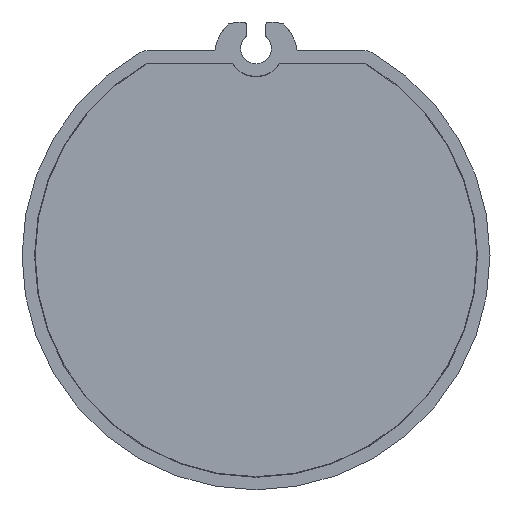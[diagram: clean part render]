
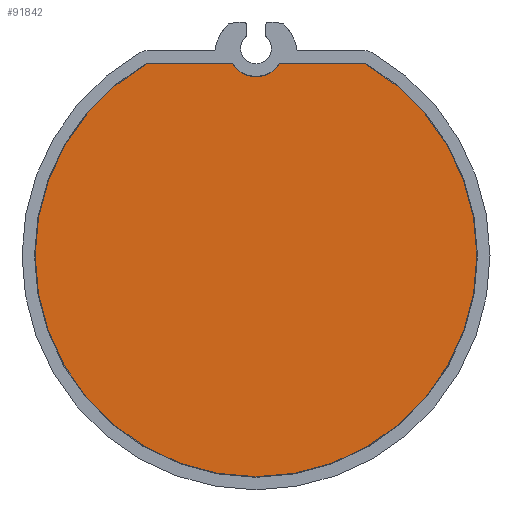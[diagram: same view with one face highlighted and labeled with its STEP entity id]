
A CAD part, front view. The second image highlights one B-rep face of the part: STEP entity #91842.
In plain terms, the highlighted planar face has unit normal (0, -1, 0).
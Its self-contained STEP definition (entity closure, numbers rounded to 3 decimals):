
#59281=CARTESIAN_POINT('',(0.,0.,21.5));
#59282=DIRECTION('',(0.,1.,0.));
#59283=DIRECTION('',(0.838,0.,-0.546));
#59284=AXIS2_PLACEMENT_3D('',#59281,#59282,#59283);
#59297=DIRECTION('',(-1.,0.,0.));
#59298=VECTOR('',#59297,8.857);
#59299=CARTESIAN_POINT('',(-2.472,0.,19.89));
#59300=LINE('',#59299,#59298);
#59451=CARTESIAN_POINT('',(0.,0.,0.));
#59452=DIRECTION('',(0.,-1.,0.));
#59453=DIRECTION('',(-0.495,0.,0.869));
#59454=AXIS2_PLACEMENT_3D('',#59451,#59452,#59453);
#59539=DIRECTION('',(-1.,0.,0.));
#59540=VECTOR('',#59539,8.857);
#59541=CARTESIAN_POINT('',(11.329,0.,19.89));
#59542=LINE('',#59541,#59540);
#86802=CARTESIAN_POINT('',(2.472,0.,19.89));
#86803=CARTESIAN_POINT('',(-2.472,0.,19.89));
#86804=VERTEX_POINT('',#86802);
#86805=VERTEX_POINT('',#86803);
#86806=CARTESIAN_POINT('',(-11.329,0.,
19.89));
#86807=CARTESIAN_POINT('',(11.329,0.,
19.89));
#86808=VERTEX_POINT('',#86806);
#86809=VERTEX_POINT('',#86807);
#91827=CARTESIAN_POINT('',(0.,0.,0.));
#91828=DIRECTION('',(0.,1.,0.));
#91829=DIRECTION('',(0.,0.,-1.));
#91830=AXIS2_PLACEMENT_3D('',#91827,#91828,#91829);
#91831=PLANE('',#91830);
#91833=ORIENTED_EDGE('',*,*,#91832,.F.);
#91835=ORIENTED_EDGE('',*,*,#91834,.F.);
#91837=ORIENTED_EDGE('',*,*,#91836,.F.);
#91839=ORIENTED_EDGE('',*,*,#91838,.F.);
#91840=EDGE_LOOP('',(#91833,#91835,#91837,#91839));
#91841=FACE_OUTER_BOUND('',#91840,.F.);
#91842=ADVANCED_FACE('',(#91841),#91831,.F.);
#59285=CIRCLE('',#59284,2.95);
#59455=CIRCLE('',#59454,22.89);
#91832=EDGE_CURVE('',#86805,#86808,#59300,.T.);
#91834=EDGE_CURVE('',#86804,#86805,#59285,.T.);
#91836=EDGE_CURVE('',#86809,#86804,#59542,.T.);
#91838=EDGE_CURVE('',#86808,#86809,#59455,.T.);
